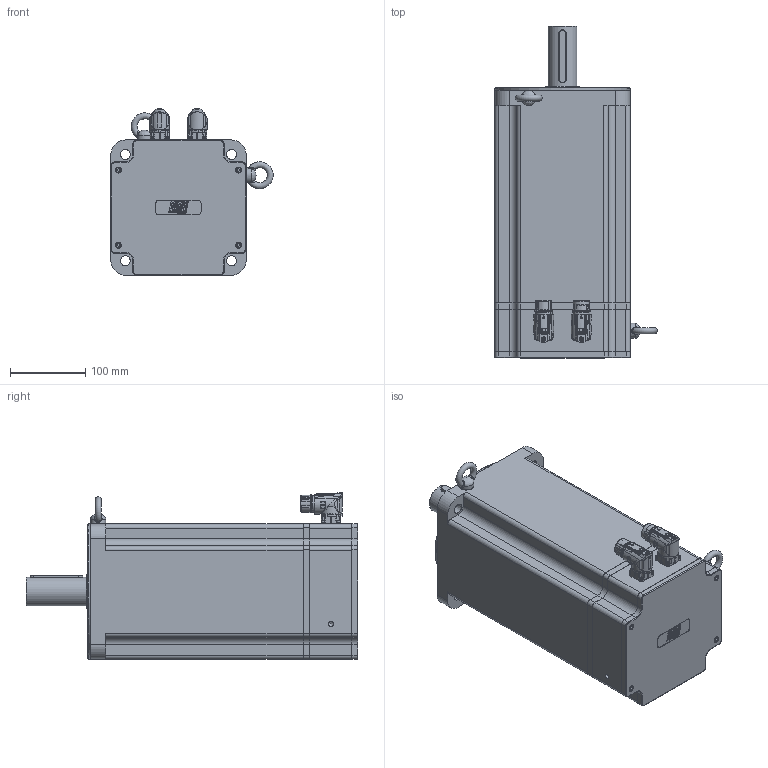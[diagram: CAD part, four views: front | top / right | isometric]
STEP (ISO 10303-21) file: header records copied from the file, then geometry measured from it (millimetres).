
FILE_DESCRIPTION(/* description */ ('Unknown'),/* implementation_level */ '2;1');
FILE_NAME(/* name */ 'TC4-180.7F.X X.X.3.XX.0.X.G2.00.00 Q0B808',/* time_stamp */ '2026-03-10T14:21:54+01:00',/* author */ ('Unknown'),/* organization */ ('Unknown'),/* preprocessor_version */ 'ST-DEVELOPER v19.4',/* originating_system */ 'Solid Edge',/* authorisation */ 'Unknown');
FILE_SCHEMA (('AUTOMOTIVE_DESIGN {1 0 10303 214 3 1 1}'));
Products named in the file (15): Q0B808 7F VUOTO; Calotta TC4-180 V8; 003251040631; 005911000479; 003155002230; 005113001040; 003120003175; 005119001064; 005911000185; Coperchio campana TC4-180; 003003199968; 005911000180; 005321000010; 007117000456; 007117000454
Assembly tree (32 placements, depth 2):
  Q0B808 7F VUOTO
    Calotta TC4-180 V8
    003251040631
    005911000479  x8
    003155002230
    005113001040
    003120003175
    005119001064
    005911000185  x8
    Coperchio campana TC4-180
    003003199968
    005911000180  x4
    005321000010  x2
    007117000456
    007117000454
Bounding box: 216 x 441.5 x 221.5 mm (x, y, z)
Volume: 4308867.6 mm3; surface area: 835743.1 mm2
Topology: 34 solids, 34 shells, 2239 faces, 5619 edges, 3604 vertices
Faces by surface type: plane 941, cylinder 519, cone 303, bspline 270, torus 147, sphere 59
Full cylindrical faces by diameter (mm): 0.5 x1, 1 x21, 1.2 x17, 1.4 x4, 2 x4, 2.013 x16, 2.5 x8, 2.8 x4, 3 x12, 3.242 x8, 4 x5, 4.134 x24, 4.2 x8, 4.5 x10, 4.7 x8, 5 x8, 5.5 x10, 5.8 x1, 5.9 x2, 6.647 x14, 6.8 x1, 7 x6, 8 x6, 9 x4, 10 x5, 10.106 x2, 15 x1, 15.2 x1, 17.4 x3, 18 x1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
Entity records: 77171 total; most frequent: CARTESIAN_POINT 20189, ORIENTED_EDGE 8902, DIRECTION 8566, EDGE_CURVE 4451, AXIS2_PLACEMENT_3D 3334, VERTEX_POINT 3099, FACE_BOUND 2642, EDGE_LOOP 2612
